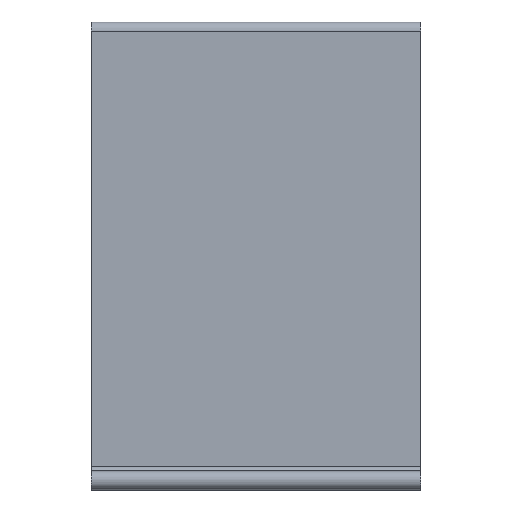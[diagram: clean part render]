
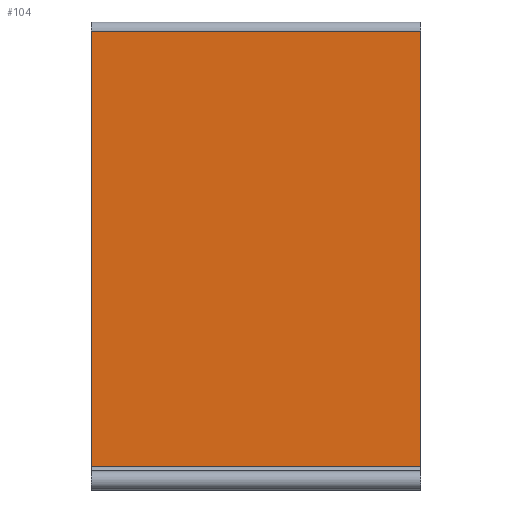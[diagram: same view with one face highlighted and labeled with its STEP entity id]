
A CAD part, left-side view. The second image highlights one B-rep face of the part: STEP entity #104.
In plain terms, the highlighted planar face has unit normal (-1, 0, 0).
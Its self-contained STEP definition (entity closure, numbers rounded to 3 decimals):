
#104 = ADVANCED_FACE( '', ( #203 ), #204, .T. );
#203 = FACE_OUTER_BOUND( '', #294, .T. );
#204 = PLANE( '', #295 );
#294 = EDGE_LOOP( '', ( #553, #554, #555, #556 ) );
#295 = AXIS2_PLACEMENT_3D( '', #557, #558, #559 );
#553 = ORIENTED_EDGE( '', *, *, #600, .F. );
#554 = ORIENTED_EDGE( '', *, *, #670, .T. );
#555 = ORIENTED_EDGE( '', *, *, #636, .T. );
#556 = ORIENTED_EDGE( '', *, *, #605, .T. );
#557 = CARTESIAN_POINT( '', ( 0., -225., 3. ) );
#558 = DIRECTION( '', ( -1., 0., 0. ) );
#559 = DIRECTION( '', ( 0., 0., 1. ) );
#600 = EDGE_CURVE( '', #733, #735, #736, .T. );
#605 = EDGE_CURVE( '', #740, #735, #742, .T. );
#636 = EDGE_CURVE( '', #788, #740, #789, .T. );
#670 = EDGE_CURVE( '', #733, #788, #828, .F. );
#733 = VERTEX_POINT( '', #905 );
#735 = VERTEX_POINT( '', #907 );
#736 = LINE( '', #908, #909 );
#740 = VERTEX_POINT( '', #913 );
#742 = LINE( '', #915, #916 );
#788 = VERTEX_POINT( '', #979 );
#789 = LINE( '', #980, #981 );
#828 = LINE( '', #1033, #1034 );
#905 = CARTESIAN_POINT( '', ( 0., 0., 6. ) );
#907 = CARTESIAN_POINT( '', ( 0., 0., 303.5 ) );
#908 = CARTESIAN_POINT( '', ( 0., 0., 3. ) );
#909 = VECTOR( '', #1097, 1000. );
#913 = CARTESIAN_POINT( '', ( 0., -225., 303.5 ) );
#915 = CARTESIAN_POINT( '', ( 0., -225., 303.5 ) );
#916 = VECTOR( '', #1107, 1000. );
#979 = CARTESIAN_POINT( '', ( 0., -225., 6. ) );
#980 = CARTESIAN_POINT( '', ( 0., -225., 3. ) );
#981 = VECTOR( '', #1140, 1000. );
#1033 = CARTESIAN_POINT( '', ( 0., -225., 6. ) );
#1034 = VECTOR( '', #1175, 1000. );
#1097 = DIRECTION( '', ( 0., 0., 1. ) );
#1107 = DIRECTION( '', ( 0., 1., 0. ) );
#1140 = DIRECTION( '', ( 0., 0., 1. ) );
#1175 = DIRECTION( '', ( 0., 1., 0. ) );
